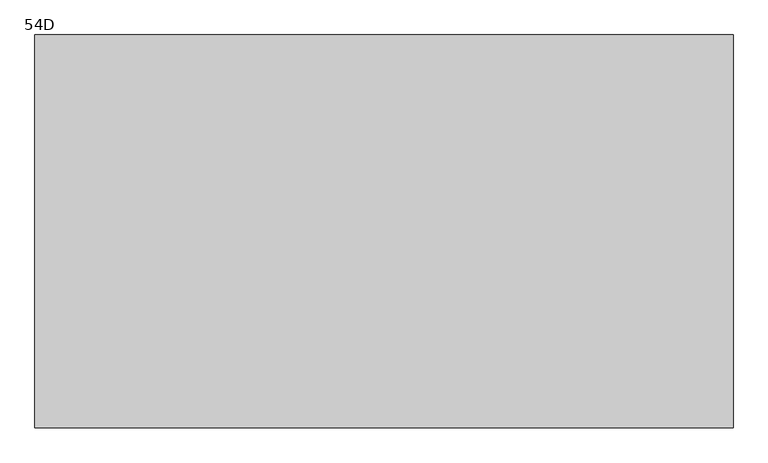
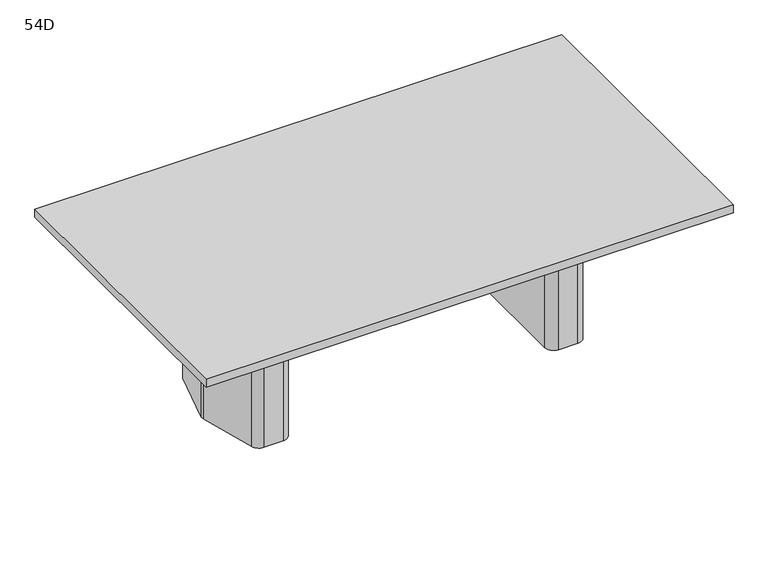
"""IFC4 building model written with IfcOpenShell, lengths in millimetres: furniture geometry, Coalesse_AM_Table_Conference_ETable2_Rectangular_96in_TwoBase : 54D."""

from ifc_helpers import new_model, si_unit, frame, origin, place, context, project, spatial, polyline, circle_curve, outline, extrude, source, transform, mapped, element, save
from ifc_brep_helpers import plane_surface, cylinder_surface, revolved_surface, advanced_brep


def furniture_54d_fcdf6722(model_context):
    return source(origin(), model_context, "Body", "SolidModel", [
        advanced_brep(
        [(760.624548, 274.2093613, 698.5), (720.7579246, 304.8, 698.5), (631.825, 304.8, 698.5), (590.55, 263.525, 698.5), (590.55, -263.525, 698.5), (631.825, -304.8, 698.5), (720.7579246, -304.8, 698.5), (760.624548, -274.2093613, 698.5), (831.2503901, -10.6333708, 698.5), (831.2503901, 10.6333708, 698.5), (628.65, -206.375, 698.5), (628.65, 206.375, 698.5), (654.05, 231.775, 698.5), (713.0608422, 231.775, 698.5), (737.595338, 212.9490792, 698.5), (776.2875, 68.54974, 698.5), (776.2875, -68.54974, 698.5), (737.595338, -212.9490792, 698.5), (713.0608422, -231.775, 698.5), (654.05, -231.775, 698.5), (760.624548, 274.2093613, 3.175), (831.2503901, 10.6333708, 3.175), (831.2503901, -10.6333708, 3.175), (760.624548, -274.2093613, 3.175), (720.7579246, -304.8, 3.175), (631.825, -304.8, 3.175), (590.55, -263.525, 3.175), (590.55, 263.525, 3.175), (631.825, 304.8, 3.175), (720.7579246, 304.8, 3.175), (749.8625859, 216.2361187, 3.175), (713.0608422, 244.475, 3.175), (654.05, 244.475, 3.175), (615.95, 206.375, 3.175), (615.95, -206.375, 3.175), (654.05, -244.475, 3.175), (713.0608422, -244.475, 3.175), (749.8625859, -216.2361187, 3.175), (788.9875, -70.2217466, 3.175), (788.9875, 70.2217466, 3.175), (654.05, -231.775, 3.175), (628.65, -206.375, 3.175), (713.0608422, -231.775, 3.175), (737.595338, -212.9490792, 3.175), (776.2875, -68.54974, 3.175), (776.2875, 68.54974, 3.175), (737.595338, 212.9490792, 3.175), (713.0608422, 231.775, 3.175), (654.05, 231.775, 3.175), (628.65, 206.375, 3.175), (749.8625859, 216.2361187, 0.0), (788.9875, 70.2217466, 0.0), (788.9875, -70.2217466, 0.0), (749.8625859, -216.2361187, 0.0), (713.0608422, -244.475, 0.0), (654.05, -244.475, 0.0), (615.95, -206.375, 0.0), (615.95, 206.375, 0.0), (654.05, 244.475, 0.0), (713.0608422, 244.475, 0.0)],
        [
            (0, 1, circle_curve(frame((720.7579246, 263.5270004, 698.5), z_axis=(0.0, 0.0, 1.0), x_axis=(-1.0, 0.0, 0.0)), 41.2729996)),
            (1, 2),
            (2, 3, circle_curve(frame((631.825, 263.525, 698.5), z_axis=(0.0, 0.0, 1.0), x_axis=(-1.0, 0.0, 0.0)), 41.275)),
            (3, 4),
            (4, 5, circle_curve(frame((631.825, -263.525, 698.5), z_axis=(0.0, 0.0, 1.0), x_axis=(-1.0, 0.0, 0.0)), 41.275)),
            (5, 6),
            (6, 7, circle_curve(frame((720.7579246, -263.5270004, 698.5), z_axis=(0.0, 0.0, 1.0), x_axis=(-1.0, 0.0, 0.0)), 41.2729996)),
            (7, 8),
            (8, 9, circle_curve(frame((791.5665979, 0.0, 698.5), z_axis=(0.0, 0.0, 1.0), x_axis=(-1.0, 0.0, 0.0)), 41.0837187)),
            (9, 0),
            (10, 11),
            (11, 12, circle_curve(frame((654.05, 206.375, 698.5), z_axis=(0.0, 0.0, -1.0), x_axis=(-1.0, 0.0, 0.0)), 25.4)),
            (12, 13),
            (13, 14, circle_curve(frame((713.0608422, 206.375, 698.5), z_axis=(0.0, 0.0, -1.0), x_axis=(-1.0, 0.0, 0.0)), 25.4)),
            (14, 15),
            (15, 16),
            (16, 17),
            (17, 18, circle_curve(frame((713.0608422, -206.375, 698.5), z_axis=(0.0, 0.0, -1.0), x_axis=(-1.0, 0.0, 0.0)), 25.4)),
            (18, 19),
            (19, 10, circle_curve(frame((654.05, -206.375, 698.5), z_axis=(0.0, 0.0, -1.0), x_axis=(-1.0, 0.0, 0.0)), 25.4)),
            (20, 21),
            (21, 22, circle_curve(frame((791.5665979, 0.0, 3.175), z_axis=(0.0, 0.0, -1.0), x_axis=(-1.0, 0.0, 0.0)), 41.0837187)),
            (22, 23),
            (23, 24, circle_curve(frame((720.7579246, -263.5270004, 3.175), z_axis=(0.0, 0.0, -1.0), x_axis=(-1.0, 0.0, 0.0)), 41.2729996)),
            (24, 25),
            (25, 26, circle_curve(frame((631.825, -263.525, 3.175), z_axis=(0.0, 0.0, -1.0), x_axis=(-1.0, 0.0, 0.0)), 41.275)),
            (26, 27),
            (27, 28, circle_curve(frame((631.825, 263.525, 3.175), z_axis=(0.0, 0.0, -1.0), x_axis=(-1.0, 0.0, 0.0)), 41.275)),
            (28, 29),
            (29, 20, circle_curve(frame((720.7579246, 263.5270004, 3.175), z_axis=(0.0, 0.0, -1.0), x_axis=(-1.0, 0.0, 0.0)), 41.2729996)),
            (30, 31, circle_curve(frame((713.0608422, 206.375, 3.175), z_axis=(0.0, 0.0, 1.0), x_axis=(-1.0, 0.0, 0.0)), 38.1)),
            (31, 32),
            (32, 33, circle_curve(frame((654.05, 206.375, 3.175), z_axis=(0.0, 0.0, 1.0), x_axis=(-1.0, 0.0, 0.0)), 38.1)),
            (33, 34),
            (34, 35, circle_curve(frame((654.05, -206.375, 3.175), z_axis=(0.0, 0.0, 1.0), x_axis=(-1.0, 0.0, 0.0)), 38.1)),
            (35, 36),
            (36, 37, circle_curve(frame((713.0608422, -206.375, 3.175), z_axis=(0.0, 0.0, 1.0), x_axis=(-1.0, 0.0, 0.0)), 38.1)),
            (37, 38),
            (38, 39),
            (39, 30),
            (9, 21),
            (20, 0),
            (8, 22),
            (7, 23),
            (6, 24),
            (5, 25),
            (4, 26),
            (3, 27),
            (2, 28),
            (1, 29),
            (19, 40),
            (40, 41, circle_curve(frame((654.05, -206.375, 3.175), z_axis=(0.0, 0.0, -1.0), x_axis=(-1.0, 0.0, 0.0)), 25.4)),
            (41, 10),
            (18, 42),
            (42, 40),
            (17, 43),
            (43, 42, circle_curve(frame((713.0608422, -206.375, 3.175), z_axis=(0.0, 0.0, -1.0), x_axis=(-1.0, 0.0, 0.0)), 25.4)),
            (16, 44),
            (44, 43),
            (15, 45),
            (45, 44),
            (14, 46),
            (46, 45),
            (13, 47),
            (47, 46, circle_curve(frame((713.0608422, 206.375, 3.175), z_axis=(0.0, 0.0, -1.0), x_axis=(-1.0, 0.0, 0.0)), 25.4)),
            (12, 48),
            (48, 47),
            (11, 49),
            (49, 48, circle_curve(frame((654.05, 206.375, 3.175), z_axis=(0.0, 0.0, -1.0), x_axis=(-1.0, 0.0, 0.0)), 25.4)),
            (41, 49),
            (50, 51),
            (51, 52),
            (52, 53),
            (53, 54, circle_curve(frame((713.0608422, -206.375, 0.0), z_axis=(0.0, 0.0, -1.0), x_axis=(-1.0, 0.0, 0.0)), 38.1)),
            (54, 55),
            (55, 56, circle_curve(frame((654.05, -206.375, 0.0), z_axis=(0.0, 0.0, -1.0), x_axis=(-1.0, 0.0, 0.0)), 38.1)),
            (56, 57),
            (57, 58, circle_curve(frame((654.05, 206.375, 0.0), z_axis=(0.0, 0.0, -1.0), x_axis=(-1.0, 0.0, 0.0)), 38.1)),
            (58, 59),
            (59, 50, circle_curve(frame((713.0608422, 206.375, 0.0), z_axis=(0.0, 0.0, -1.0), x_axis=(-1.0, 0.0, 0.0)), 38.1)),
            (50, 30),
            (39, 51),
            (38, 52),
            (37, 53),
            (36, 54),
            (35, 55),
            (34, 56),
            (33, 57),
            (32, 58),
            (31, 59),
        ],
        [
            plane_surface(frame((831.2374275, 10.6817473, 698.5), z_axis=(0.0, 0.0, 1.0000000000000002), x_axis=(0.25882201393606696, -0.9659250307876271, 0.0))),
            plane_surface(frame((831.2374275, 10.6817473, 3.175), z_axis=(0.0, 0.0, -1.0000000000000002), x_axis=(-0.25882201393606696, 0.9659250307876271, 0.0))),
            plane_surface(frame((760.624548, 274.2093613, 698.5), z_axis=(0.9659250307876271, 0.25882201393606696, 0.0), x_axis=(0.0, 0.0, -1.0))),
            cylinder_surface(frame((791.5665979, 0.0, 3.175), z_axis=(0.0, 0.0, 1.0), x_axis=(-1.0, 0.0, 0.0)), 41.0837187),
            plane_surface(frame((831.2503901, -10.6333708, 698.5), z_axis=(0.9659250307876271, -0.2588220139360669, 0.0), x_axis=(0.0, 0.0, -1.0))),
            cylinder_surface(frame((720.7579246, -263.5270004, 3.175), z_axis=(0.0, 0.0, 1.0), x_axis=(-1.0, 0.0, 0.0)), 41.2729996),
            plane_surface(frame((720.7579246, -304.8, 698.5), z_axis=(0.0, -1.0, 0.0), x_axis=(0.0, 0.0, -1.0))),
            cylinder_surface(frame((631.825, -263.525, 3.175), z_axis=(0.0, 0.0, 1.0), x_axis=(-1.0, 0.0, 0.0)), 41.275),
            plane_surface(frame((590.55, -263.525, 698.5), z_axis=(-1.0, 0.0, 0.0), x_axis=(0.0, 0.0, -1.0))),
            cylinder_surface(frame((631.825, 263.525, 3.175), z_axis=(0.0, 0.0, 1.0), x_axis=(-1.0, 0.0, 0.0)), 41.275),
            plane_surface(frame((631.825, 304.8, 698.5), z_axis=(0.0, 1.0, 0.0), x_axis=(0.0, 0.0, -1.0))),
            cylinder_surface(frame((720.7579246, 263.5270004, 3.175), z_axis=(0.0, 0.0, 1.0), x_axis=(-1.0, 0.0, 0.0)), 41.2729996),
            revolved_surface(polyline([(628.65, -206.375, 3.175), (628.65, -206.375, 698.5)]), (654.05, -206.375, 0.0), (0.0, 0.0, -1.0)),
            plane_surface(frame((654.05, -231.775, 698.5), z_axis=(0.0, 1.0, 0.0), x_axis=(0.0, 0.0, -1.0))),
            revolved_surface(polyline([(687.6608422, -206.375, 3.175), (687.6608422, -206.375, 698.5)]), (713.0608422, -206.375, 0.0), (0.0, 0.0, -1.0)),
            plane_surface(frame((737.595338, -212.9490792, 698.5), z_axis=(-0.9659250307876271, 0.2588220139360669, 0.0), x_axis=(0.0, 0.0, -1.0))),
            plane_surface(frame((776.2875, -68.54974, 698.5), z_axis=(-1.0, 0.0, 0.0), x_axis=(0.0, 0.0, -1.0))),
            plane_surface(frame((776.2875, 68.54974, 698.5), z_axis=(-0.9659250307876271, -0.25882201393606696, 0.0), x_axis=(0.0, 0.0, -1.0))),
            revolved_surface(polyline([(687.6608422, 206.375, 3.175), (687.6608422, 206.375, 698.5)]), (713.0608422, 206.375, 0.0), (0.0, 0.0, -1.0)),
            plane_surface(frame((713.0608422, 231.775, 698.5), z_axis=(0.0, -1.0, 0.0), x_axis=(0.0, 0.0, -1.0))),
            revolved_surface(polyline([(628.65, 206.375, 3.175), (628.65, 206.375, 698.5)]), (654.05, 206.375, 0.0), (0.0, 0.0, -1.0)),
            plane_surface(frame((628.65, 206.375, 698.5), z_axis=(1.0, 0.0, 0.0), x_axis=(0.0, 0.0, -1.0))),
            plane_surface(frame((788.5547479, 71.8367796, 3.175), z_axis=(0.0, 0.0, 1.0), x_axis=(0.25882201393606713, -0.965925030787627, 0.0))),
            plane_surface(frame((788.5547479, 71.8367796, 0.0), z_axis=(0.0, 0.0, -1.0), x_axis=(-0.25882201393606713, 0.965925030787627, 0.0))),
            plane_surface(frame((749.8625859, 216.2361187, 3.175), z_axis=(0.965925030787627, 0.25882201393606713, 0.0), x_axis=(0.0, 0.0, -1.0))),
            plane_surface(frame((788.9875, 70.2217466, 3.175), z_axis=(1.0, 0.0, 0.0), x_axis=(0.0, 0.0, -1.0))),
            plane_surface(frame((788.9875, -70.2217466, 3.175), z_axis=(0.9659250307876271, -0.2588220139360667, 0.0), x_axis=(0.0, 0.0, -1.0))),
            cylinder_surface(frame((713.0608422, -206.375, 0.0), z_axis=(0.0, 0.0, 1.0), x_axis=(-1.0, 0.0, 0.0)), 38.1),
            plane_surface(frame((713.0608422, -244.475, 3.175), z_axis=(0.0, -1.0, 0.0), x_axis=(0.0, 0.0, -1.0))),
            cylinder_surface(frame((654.05, -206.375, 0.0), z_axis=(0.0, 0.0, 1.0), x_axis=(-1.0, 0.0, 0.0)), 38.1),
            plane_surface(frame((615.95, -206.375, 3.175), z_axis=(-1.0, 0.0, 0.0), x_axis=(0.0, 0.0, -1.0))),
            cylinder_surface(frame((654.05, 206.375, 0.0), z_axis=(0.0, 0.0, 1.0), x_axis=(-1.0, 0.0, 0.0)), 38.1),
            plane_surface(frame((654.05, 244.475, 3.175), z_axis=(0.0, 1.0, 0.0), x_axis=(0.0, 0.0, -1.0))),
            cylinder_surface(frame((713.0608422, 206.375, 0.0), z_axis=(0.0, 0.0, 1.0), x_axis=(-1.0, 0.0, 0.0)), 38.1),
        ],
        [
            (0, [[1, 2, 3, 4, 5, 6, 7, 8, 9, 10], [11, 12, 13, 14, 15, 16, 17, 18, 19, 20]]),
            (1, [[21, 22, 23, 24, 25, 26, 27, 28, 29, 30], [31, 32, 33, 34, 35, 36, 37, 38, 39, 40]]),
            (2, [[41, -21, 42, -10]]),
            (3, [[43, -22, -41, -9]]),
            (4, [[44, -23, -43, -8]]),
            (5, [[45, -24, -44, -7]]),
            (6, [[46, -25, -45, -6]]),
            (7, [[47, -26, -46, -5]]),
            (8, [[48, -27, -47, -4]]),
            (9, [[49, -28, -48, -3]]),
            (10, [[50, -29, -49, -2]]),
            (11, [[-42, -30, -50, -1]]),
            (12, [[51, 52, 53, -20]]),
            (13, [[54, 55, -51, -19]]),
            (14, [[56, 57, -54, -18]]),
            (15, [[58, 59, -56, -17]]),
            (16, [[60, 61, -58, -16]]),
            (17, [[62, 63, -60, -15]]),
            (18, [[64, 65, -62, -14]]),
            (19, [[66, 67, -64, -13]]),
            (20, [[68, 69, -66, -12]]),
            (21, [[-53, 70, -68, -11]]),
            (22, [[-55, -57, -59, -61, -63, -65, -67, -69, -70, -52]]),
            (23, [[71, 72, 73, 74, 75, 76, 77, 78, 79, 80]]),
            (24, [[81, -40, 82, -71]]),
            (25, [[-82, -39, 83, -72]]),
            (26, [[-83, -38, 84, -73]]),
            (27, [[-84, -37, 85, -74]]),
            (28, [[-85, -36, 86, -75]]),
            (29, [[-86, -35, 87, -76]]),
            (30, [[-87, -34, 88, -77]]),
            (31, [[-88, -33, 89, -78]]),
            (32, [[-89, -32, 90, -79]]),
            (33, [[-90, -31, -81, -80]]),
        ],
    ),
        advanced_brep(
        [(-771.737048, 274.2093613, 698.5), (-842.3628901, 10.6333708, 698.5), (-842.3628901, -10.6333708, 698.5), (-771.737048, -274.2093613, 698.5), (-731.8704246, -304.8, 698.5), (-642.9375, -304.8, 698.5), (-601.6625, -263.525, 698.5), (-601.6625, 263.525, 698.5), (-642.9375, 304.8, 698.5), (-731.8704246, 304.8, 698.5), (-639.7625, -206.375, 698.5), (-665.1625, -231.775, 698.5), (-724.1733422, -231.775, 698.5), (-748.707838, -212.9490792, 698.5), (-787.4, -68.54974, 698.5), (-787.4, 68.54974, 698.5), (-748.707838, 212.9490792, 698.5), (-724.1733422, 231.775, 698.5), (-665.1625, 231.775, 698.5), (-639.7625, 206.375, 698.5), (-771.737048, 274.2093613, 3.175), (-731.8704246, 304.8, 3.175), (-642.9375, 304.8, 3.175), (-601.6625, 263.525, 3.175), (-601.6625, -263.525, 3.175), (-642.9375, -304.8, 3.175), (-731.8704246, -304.8, 3.175), (-771.737048, -274.2093613, 3.175), (-842.3628901, -10.6333708, 3.175), (-842.3628901, 10.6333708, 3.175), (-760.9750859, 216.2361187, 3.175), (-800.1, 70.2217466, 3.175), (-800.1, -70.2217466, 3.175), (-760.9750859, -216.2361187, 3.175), (-724.1733422, -244.475, 3.175), (-665.1625, -244.475, 3.175), (-627.0625, -206.375, 3.175), (-627.0625, 206.375, 3.175), (-665.1625, 244.475, 3.175), (-724.1733422, 244.475, 3.175), (-639.7625, -206.375, 3.175), (-665.1625, -231.775, 3.175), (-724.1733422, -231.775, 3.175), (-748.707838, -212.9490792, 3.175), (-787.4, -68.54974, 3.175), (-787.4, 68.54974, 3.175), (-748.707838, 212.9490792, 3.175), (-724.1733422, 231.775, 3.175), (-665.1625, 231.775, 3.175), (-639.7625, 206.375, 3.175), (-760.9750859, 216.2361187, 0.0), (-724.1733422, 244.475, 0.0), (-665.1625, 244.475, 0.0), (-627.0625, 206.375, 0.0), (-627.0625, -206.375, 0.0), (-665.1625, -244.475, 0.0), (-724.1733422, -244.475, 0.0), (-760.9750859, -216.2361187, 0.0), (-800.1, -70.2217466, 0.0), (-800.1, 70.2217466, 0.0)],
        [
            (0, 1),
            (1, 2, circle_curve(frame((-802.6790979, 0.0, 698.5), z_axis=(0.0, 0.0, 1.0), x_axis=(1.0, 0.0, 0.0)), 41.0837187)),
            (2, 3),
            (3, 4, circle_curve(frame((-731.8704246, -263.5270004, 698.5), z_axis=(0.0, 0.0, 1.0), x_axis=(1.0, 0.0, 0.0)), 41.2729996)),
            (4, 5),
            (5, 6, circle_curve(frame((-642.9375, -263.525, 698.5), z_axis=(0.0, 0.0, 1.0), x_axis=(1.0, 0.0, 0.0)), 41.275)),
            (6, 7),
            (7, 8, circle_curve(frame((-642.9375, 263.525, 698.5), z_axis=(0.0, 0.0, 1.0), x_axis=(1.0, 0.0, 0.0)), 41.275)),
            (8, 9),
            (9, 0, circle_curve(frame((-731.8704246, 263.5270004, 698.5), z_axis=(0.0, 0.0, 1.0), x_axis=(1.0, 0.0, 0.0)), 41.2729996)),
            (10, 11, circle_curve(frame((-665.1625, -206.375, 698.5), z_axis=(0.0, 0.0, -1.0), x_axis=(1.0, 0.0, 0.0)), 25.4)),
            (11, 12),
            (12, 13, circle_curve(frame((-724.1733422, -206.375, 698.5), z_axis=(0.0, 0.0, -1.0), x_axis=(1.0, 0.0, 0.0)), 25.4)),
            (13, 14),
            (14, 15),
            (15, 16),
            (16, 17, circle_curve(frame((-724.1733422, 206.375, 698.5), z_axis=(0.0, 0.0, -1.0), x_axis=(1.0, 0.0, 0.0)), 25.4)),
            (17, 18),
            (18, 19, circle_curve(frame((-665.1625, 206.375, 698.5), z_axis=(0.0, 0.0, -1.0), x_axis=(1.0, 0.0, 0.0)), 25.4)),
            (19, 10),
            (20, 21, circle_curve(frame((-731.8704246, 263.5270004, 3.175), z_axis=(0.0, 0.0, -1.0), x_axis=(1.0, 0.0, 0.0)), 41.2729996)),
            (21, 22),
            (22, 23, circle_curve(frame((-642.9375, 263.525, 3.175), z_axis=(0.0, 0.0, -1.0), x_axis=(1.0, 0.0, 0.0)), 41.275)),
            (23, 24),
            (24, 25, circle_curve(frame((-642.9375, -263.525, 3.175), z_axis=(0.0, 0.0, -1.0), x_axis=(1.0, 0.0, 0.0)), 41.275)),
            (25, 26),
            (26, 27, circle_curve(frame((-731.8704246, -263.5270004, 3.175), z_axis=(0.0, 0.0, -1.0), x_axis=(1.0, 0.0, 0.0)), 41.2729996)),
            (27, 28),
            (28, 29, circle_curve(frame((-802.6790979, 0.0, 3.175), z_axis=(0.0, 0.0, -1.0), x_axis=(1.0, 0.0, 0.0)), 41.0837187)),
            (29, 20),
            (30, 31),
            (31, 32),
            (32, 33),
            (33, 34, circle_curve(frame((-724.1733422, -206.375, 3.175), z_axis=(0.0, 0.0, 1.0), x_axis=(1.0, 0.0, 0.0)), 38.1)),
            (34, 35),
            (35, 36, circle_curve(frame((-665.1625, -206.375, 3.175), z_axis=(0.0, 0.0, 1.0), x_axis=(1.0, 0.0, 0.0)), 38.1)),
            (36, 37),
            (37, 38, circle_curve(frame((-665.1625, 206.375, 3.175), z_axis=(0.0, 0.0, 1.0), x_axis=(1.0, 0.0, 0.0)), 38.1)),
            (38, 39),
            (39, 30, circle_curve(frame((-724.1733422, 206.375, 3.175), z_axis=(0.0, 0.0, 1.0), x_axis=(1.0, 0.0, 0.0)), 38.1)),
            (0, 20),
            (29, 1),
            (28, 2),
            (27, 3),
            (26, 4),
            (25, 5),
            (24, 6),
            (23, 7),
            (22, 8),
            (21, 9),
            (10, 40),
            (40, 41, circle_curve(frame((-665.1625, -206.375, 3.175), z_axis=(0.0, 0.0, -1.0), x_axis=(1.0, 0.0, 0.0)), 25.4)),
            (41, 11),
            (41, 42),
            (42, 12),
            (42, 43, circle_curve(frame((-724.1733422, -206.375, 3.175), z_axis=(0.0, 0.0, -1.0), x_axis=(1.0, 0.0, 0.0)), 25.4)),
            (43, 13),
            (43, 44),
            (44, 14),
            (44, 45),
            (45, 15),
            (45, 46),
            (46, 16),
            (46, 47, circle_curve(frame((-724.1733422, 206.375, 3.175), z_axis=(0.0, 0.0, -1.0), x_axis=(1.0, 0.0, 0.0)), 25.4)),
            (47, 17),
            (47, 48),
            (48, 18),
            (48, 49, circle_curve(frame((-665.1625, 206.375, 3.175), z_axis=(0.0, 0.0, -1.0), x_axis=(1.0, 0.0, 0.0)), 25.4)),
            (49, 19),
            (49, 40),
            (50, 51, circle_curve(frame((-724.1733422, 206.375, 0.0), z_axis=(0.0, 0.0, -1.0), x_axis=(1.0, 0.0, 0.0)), 38.1)),
            (51, 52),
            (52, 53, circle_curve(frame((-665.1625, 206.375, 0.0), z_axis=(0.0, 0.0, -1.0), x_axis=(1.0, 0.0, 0.0)), 38.1)),
            (53, 54),
            (54, 55, circle_curve(frame((-665.1625, -206.375, 0.0), z_axis=(0.0, 0.0, -1.0), x_axis=(1.0, 0.0, 0.0)), 38.1)),
            (55, 56),
            (56, 57, circle_curve(frame((-724.1733422, -206.375, 0.0), z_axis=(0.0, 0.0, -1.0), x_axis=(1.0, 0.0, 0.0)), 38.1)),
            (57, 58),
            (58, 59),
            (59, 50),
            (59, 31),
            (30, 50),
            (58, 32),
            (57, 33),
            (56, 34),
            (55, 35),
            (54, 36),
            (53, 37),
            (52, 38),
            (51, 39),
        ],
        [
            plane_surface(frame((-842.3499275, 10.6817473, 698.5), z_axis=(0.0, 0.0, 1.0000000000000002), x_axis=(-0.25882201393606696, -0.9659250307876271, 0.0))),
            plane_surface(frame((-842.3499275, 10.6817473, 3.175), z_axis=(0.0, 0.0, -1.0000000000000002), x_axis=(0.25882201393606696, 0.9659250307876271, 0.0))),
            plane_surface(frame((-771.737048, 274.2093613, 698.5), z_axis=(-0.9659250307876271, 0.25882201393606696, 0.0), x_axis=(0.0, 0.0, -1.0))),
            cylinder_surface(frame((-802.6790979, 0.0, 3.175), z_axis=(0.0, 0.0, 1.0), x_axis=(1.0, 0.0, 0.0)), 41.0837187),
            plane_surface(frame((-842.3628901, -10.6333708, 698.5), z_axis=(-0.9659250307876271, -0.2588220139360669, 0.0), x_axis=(0.0, 0.0, -1.0))),
            cylinder_surface(frame((-731.8704246, -263.5270004, 3.175), z_axis=(0.0, 0.0, 1.0), x_axis=(1.0, 0.0, 0.0)), 41.2729996),
            plane_surface(frame((-731.8704246, -304.8, 698.5), z_axis=(0.0, -1.0, 0.0), x_axis=(0.0, 0.0, -1.0))),
            cylinder_surface(frame((-642.9375, -263.525, 3.175), z_axis=(0.0, 0.0, 1.0), x_axis=(1.0, 0.0, 0.0)), 41.275),
            plane_surface(frame((-601.6625, -263.525, 698.5), z_axis=(1.0, 0.0, 0.0), x_axis=(0.0, 0.0, -1.0))),
            cylinder_surface(frame((-642.9375, 263.525, 3.175), z_axis=(0.0, 0.0, 1.0), x_axis=(1.0, 0.0, 0.0)), 41.275),
            plane_surface(frame((-642.9375, 304.8, 698.5), z_axis=(0.0, 1.0, 0.0), x_axis=(0.0, 0.0, -1.0))),
            cylinder_surface(frame((-731.8704246, 263.5270004, 3.175), z_axis=(0.0, 0.0, 1.0), x_axis=(1.0, 0.0, 0.0)), 41.2729996),
            revolved_surface(polyline([(-639.7625, -206.375, 3.175), (-639.7625, -206.375, 698.5)]), (-665.1625, -206.375, 0.0), (0.0, 0.0, -1.0)),
            plane_surface(frame((-665.1625, -231.775, 698.5), z_axis=(0.0, 1.0, 0.0), x_axis=(0.0, 0.0, -1.0))),
            revolved_surface(polyline([(-698.7733422, -206.375, 3.175), (-698.7733422, -206.375, 698.5)]), (-724.1733422, -206.375, 0.0), (0.0, 0.0, -1.0)),
            plane_surface(frame((-748.707838, -212.9490792, 698.5), z_axis=(0.9659250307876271, 0.2588220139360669, 0.0), x_axis=(0.0, 0.0, -1.0))),
            plane_surface(frame((-787.4, -68.54974, 698.5), z_axis=(1.0, 0.0, 0.0), x_axis=(0.0, 0.0, -1.0))),
            plane_surface(frame((-787.4, 68.54974, 698.5), z_axis=(0.9659250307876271, -0.25882201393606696, 0.0), x_axis=(0.0, 0.0, -1.0))),
            revolved_surface(polyline([(-698.7733422, 206.375, 3.175), (-698.7733422, 206.375, 698.5)]), (-724.1733422, 206.375, 0.0), (0.0, 0.0, -1.0)),
            plane_surface(frame((-724.1733422, 231.775, 698.5), z_axis=(0.0, -1.0, 0.0), x_axis=(0.0, 0.0, -1.0))),
            revolved_surface(polyline([(-639.7625, 206.375, 3.175), (-639.7625, 206.375, 698.5)]), (-665.1625, 206.375, 0.0), (0.0, 0.0, -1.0)),
            plane_surface(frame((-639.7625, 206.375, 698.5), z_axis=(-1.0, 0.0, 0.0), x_axis=(0.0, 0.0, -1.0))),
            plane_surface(frame((-799.6672479, 71.8367796, 3.175), z_axis=(0.0, 0.0, 1.0), x_axis=(-0.25882201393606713, -0.965925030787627, 0.0))),
            plane_surface(frame((-799.6672479, 71.8367796, 0.0), z_axis=(0.0, 0.0, -1.0), x_axis=(0.25882201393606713, 0.965925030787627, 0.0))),
            plane_surface(frame((-760.9750859, 216.2361187, 3.175), z_axis=(-0.965925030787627, 0.25882201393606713, 0.0), x_axis=(0.0, 0.0, -1.0))),
            plane_surface(frame((-800.1, 70.2217466, 3.175), z_axis=(-1.0, 0.0, 0.0), x_axis=(0.0, 0.0, -1.0))),
            plane_surface(frame((-800.1, -70.2217466, 3.175), z_axis=(-0.9659250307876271, -0.2588220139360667, 0.0), x_axis=(0.0, 0.0, -1.0))),
            cylinder_surface(frame((-724.1733422, -206.375, 0.0), z_axis=(0.0, 0.0, 1.0), x_axis=(1.0, 0.0, 0.0)), 38.1),
            plane_surface(frame((-724.1733422, -244.475, 3.175), z_axis=(0.0, -1.0, 0.0), x_axis=(0.0, 0.0, -1.0))),
            cylinder_surface(frame((-665.1625, -206.375, 0.0), z_axis=(0.0, 0.0, 1.0), x_axis=(1.0, 0.0, 0.0)), 38.1),
            plane_surface(frame((-627.0625, -206.375, 3.175), z_axis=(1.0, 0.0, 0.0), x_axis=(0.0, 0.0, -1.0))),
            cylinder_surface(frame((-665.1625, 206.375, 0.0), z_axis=(0.0, 0.0, 1.0), x_axis=(1.0, 0.0, 0.0)), 38.1),
            plane_surface(frame((-665.1625, 244.475, 3.175), z_axis=(0.0, 1.0, 0.0), x_axis=(0.0, 0.0, -1.0))),
            cylinder_surface(frame((-724.1733422, 206.375, 0.0), z_axis=(0.0, 0.0, 1.0), x_axis=(1.0, 0.0, 0.0)), 38.1),
        ],
        [
            (0, [[1, 2, 3, 4, 5, 6, 7, 8, 9, 10], [11, 12, 13, 14, 15, 16, 17, 18, 19, 20]]),
            (1, [[21, 22, 23, 24, 25, 26, 27, 28, 29, 30], [31, 32, 33, 34, 35, 36, 37, 38, 39, 40]]),
            (2, [[-1, 41, -30, 42]]),
            (3, [[-2, -42, -29, 43]]),
            (4, [[-3, -43, -28, 44]]),
            (5, [[-4, -44, -27, 45]]),
            (6, [[-5, -45, -26, 46]]),
            (7, [[-6, -46, -25, 47]]),
            (8, [[-7, -47, -24, 48]]),
            (9, [[-8, -48, -23, 49]]),
            (10, [[-9, -49, -22, 50]]),
            (11, [[-10, -50, -21, -41]]),
            (12, [[-11, 51, 52, 53]]),
            (13, [[-12, -53, 54, 55]]),
            (14, [[-13, -55, 56, 57]]),
            (15, [[-14, -57, 58, 59]]),
            (16, [[-15, -59, 60, 61]]),
            (17, [[-16, -61, 62, 63]]),
            (18, [[-17, -63, 64, 65]]),
            (19, [[-18, -65, 66, 67]]),
            (20, [[-19, -67, 68, 69]]),
            (21, [[-20, -69, 70, -51]]),
            (22, [[-52, -70, -68, -66, -64, -62, -60, -58, -56, -54]]),
            (23, [[71, 72, 73, 74, 75, 76, 77, 78, 79, 80]]),
            (24, [[-80, 81, -31, 82]]),
            (25, [[-79, 83, -32, -81]]),
            (26, [[-78, 84, -33, -83]]),
            (27, [[-77, 85, -34, -84]]),
            (28, [[-76, 86, -35, -85]]),
            (29, [[-75, 87, -36, -86]]),
            (30, [[-74, 88, -37, -87]]),
            (31, [[-73, 89, -38, -88]]),
            (32, [[-72, 90, -39, -89]]),
            (33, [[-71, -82, -40, -90]]),
        ],
    ),
        extrude(outline(polyline([(96.8375, 698.5), (103.1875, 698.5), (103.1875, 476.25), (-103.1875, 476.25), (-103.1875, 698.5), (-96.8375, 698.5), (-96.8375, 482.6), (96.8375, 482.6), (96.8375, 698.5)])), frame((-601.6625, 0.0, 0.0), z_axis=(1.0, 0.0, 0.0), x_axis=(0.0, 1.0, 0.0)), (0.0, 0.0, 1.0), 1192.2125),
        extrude(outline(polyline([(1219.2, 685.8), (1219.2, -685.8), (-1219.2, -685.8), (-1219.2, 685.8), (1219.2, 685.8)])), frame((0.0, 0.0, 698.5), z_axis=(0.0, 0.0, 1.0), x_axis=(1.0, 0.0, 0.0)), (0.0, 0.0, 1.0), 38.1),
    ])


if __name__ == "__main__":
    model = new_model("IFC4")
    model_context = context("Model", 3, world=origin())
    ifc_project = project(units=[si_unit("LENGTHUNIT", "METRE", prefix="MILLI")], contexts=[model_context])
    site = spatial("IfcSite", under=ifc_project)
    building = spatial("IfcBuilding", under=site)
    placement = place(None, origin())
    furniture_54d_shape = furniture_54d_fcdf6722(model_context)
    element("IfcFurniture", 1, ObjectType="Coalesse_AM_Table_Conference_ETable2_Rectangular_96in_TwoBase : 54D", at=placement, inside=building, context=model_context, shape_type="MappedRepresentation", body=[
        mapped(furniture_54d_shape, transform((0.0, 0.0, 0.0), x_axis=(1.0, 0.0, 0.0), y_axis=(0.0, 1.0, 0.0), z_axis=(0.0, 0.0, 1.0))),
    ])
    save(model, "model.ifc")
